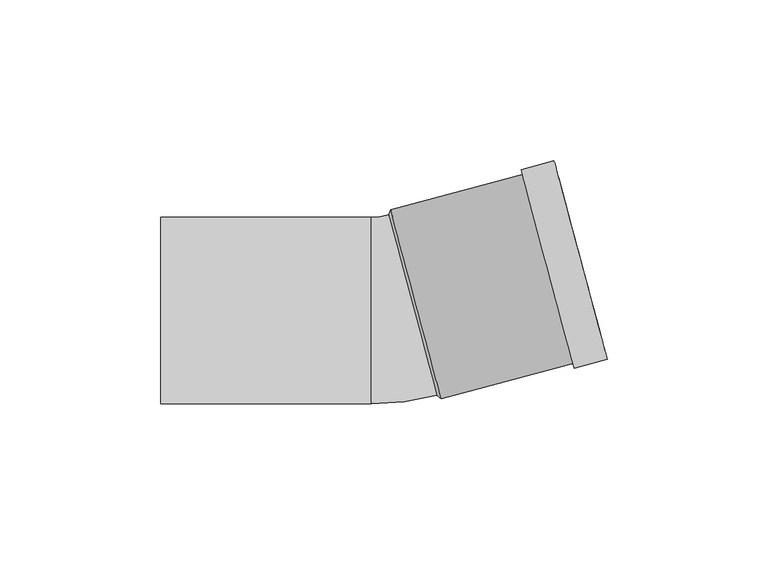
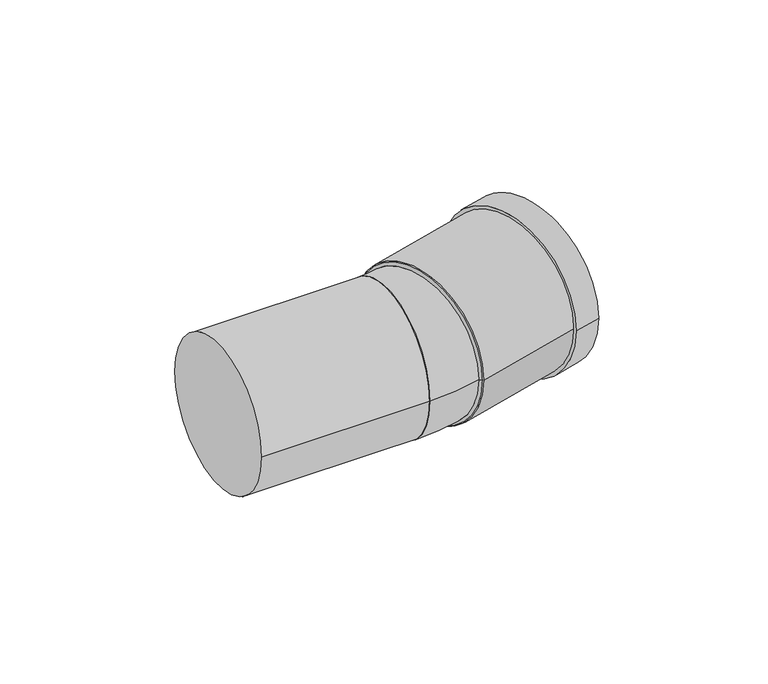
"""IFC4 building model written with IfcOpenShell, lengths in millimetres: pipe fitting geometry, Superdrain SKB Bend : Superdrain SKB Bend."""

from ifc_helpers import new_model, si_unit, point, frame, origin, origin_2d, place, context, project, spatial, polyline, circle_curve, ellipse_curve, trimmed, segment, composite_curve, outline, extrude, source, transform, mapped, element, save
from ifc_brep_helpers import plane_surface, revolved_surface, advanced_brep


def pipe_fitting_c4610ebc(model_context):
    return source(origin(), model_context, "Body", "SolidModel", [
        advanced_brep(
        [(13.8808628, -26.3036433, 0.0), (-1.1306419, 29.7200547, 0.0), (-6.6, -29.0, 0.0), (-6.6, 29.0, 0.0)],
        [
            (0, 1, circle_curve(frame((6.3751105, 1.7082057, 0.0), z_axis=(0.965925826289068, 0.258819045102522, 0.0), x_axis=(-0.258819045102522, 0.965925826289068, 0.0)), 29.0)),
            (1, 0, circle_curve(frame((6.3751105, 1.7082057, 0.0), z_axis=(0.9659258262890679, 0.25881904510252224, 0.0), x_axis=(-0.25881904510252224, 0.9659258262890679, 0.0)), 29.0)),
            (2, 3, circle_curve(frame((-6.6, 0.0, 0.0), z_axis=(-1.0, 0.0, 0.0), x_axis=(0.0, 1.0, 0.0)), 29.0)),
            (3, 2, circle_curve(frame((-6.6, 0.0, 0.0), z_axis=(-1.0, 0.0, 0.0), x_axis=(0.0, 1.0, 0.0)), 29.0)),
            (3, 1, circle_curve(frame((-6.6, 50.1319771, 0.0), z_axis=(0.0, 0.0, 1.0), x_axis=(1.0, 0.0, 0.0)), 21.1319771)),
            (0, 2, circle_curve(frame((-6.6, 50.1319771, 0.0), z_axis=(0.0, 0.0, -1.0), x_axis=(1.0, 0.0, 0.0)), 79.1319771)),
        ],
        [
            plane_surface(frame((6.3751105, 1.7082057, 0.0), z_axis=(0.965925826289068, 0.25881904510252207, 0.0), x_axis=(0.0, 0.0, -1.0))),
            plane_surface(frame((-6.6, 0.0, 0.0), z_axis=(-1.0, 0.0, 0.0), x_axis=(0.0, 0.0, -1.0))),
            revolved_surface(trimmed(ellipse_curve(frame((43.5319771, 50.1319771, 0.0), z_axis=(0.0, -1.0, 0.0), x_axis=(-1.0, 0.0, 0.0)), 29.0, 29.0), [point((14.5319771, 50.1319771, 0.0))], [point((72.5319771, 50.1319771, 0.0))], True, "CARTESIAN"), (-6.6, 50.1319771, 0.0), (0.0, 0.0, 1.0)),
            revolved_surface(trimmed(ellipse_curve(frame((43.5319771, 50.1319771, 0.0), z_axis=(0.0, -1.0, 0.0), x_axis=(-1.0, 0.0, 0.0)), 29.0, 29.0), [point((72.5319771, 50.1319771, 0.0))], [point((14.5319771, 50.1319771, 0.0))], True, "CARTESIAN"), (-6.6, 50.1319771, 0.0), (0.0, 0.0, 1.0)),
        ],
        [
            (0, [[1, 2]]),
            (1, [[3, 4]]),
            (2, [[-4, 5, -1, 6]]),
            (3, [[-3, -6, -2, -5]]),
        ],
    ),
        extrude(outline(composite_curve([segment(trimmed(circle_curve(origin_2d(), 30.45), [point((0.0, 30.45))], [point((0.0, -30.4500001))], False, "CARTESIAN"), True, "CONTINUOUS"), segment(trimmed(circle_curve(origin_2d(), 30.45), [point((0.0, -30.4500001))], [point((0.0, 30.45))], False, "CARTESIAN"), True, "CONTINUOUS")], self_intersect=False), holes=[composite_curve([segment(trimmed(circle_curve(origin_2d(), 29.0), [point((0.0, 28.9999999))], [point((0.0, -29.0))], True, "CARTESIAN"), True, "CONTINUOUS"), segment(trimmed(circle_curve(origin_2d(), 29.0), [point((0.0, -29.0))], [point((0.0, 28.9999999))], True, "CARTESIAN"), True, "CONTINUOUS")], self_intersect=False)]), frame((7.3410363, 1.9670247, 0.0), z_axis=(0.9659258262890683, 0.2588190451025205, 0.0), x_axis=(0.0, 0.0, 1.0)), (0.0, 0.0, 1.0), 53.0),
        extrude(outline(composite_curve([segment(trimmed(circle_curve(origin_2d(), 31.9725), [point((0.0, -31.9724999))], [point((0.0, 31.9725))], False, "CARTESIAN"), True, "CONTINUOUS"), segment(trimmed(circle_curve(origin_2d(), 31.9725), [point((0.0, 31.9725))], [point((0.0, -31.9724999))], False, "CARTESIAN"), True, "CONTINUOUS")], self_intersect=False), holes=[composite_curve([segment(trimmed(circle_curve(origin_2d(), 29.0), [point((0.0, -28.9999999))], [point((0.0, 29.0))], True, "CARTESIAN"), True, "CONTINUOUS"), segment(trimmed(circle_curve(origin_2d(), 29.0), [point((0.0, 29.0))], [point((0.0, -28.9999999))], True, "CARTESIAN"), True, "CONTINUOUS")], self_intersect=False)]), frame((48.2962913, 12.9409523, 0.0), z_axis=(0.9659258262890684, 0.25881904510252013, 0.0), x_axis=(0.0, 0.0, 1.0)), (0.0, 0.0, 1.0), 10.6),
        advanced_brep(
        [(15.2220762, -27.4454167, 0.0), (-0.5400036, 31.3794662, 0.0), (13.8808628, -26.3036433, 0.0), (-1.1306419, 29.7200547, 0.0)],
        [
            (0, 1, circle_curve(frame((7.3410363, 1.9670247, 0.0), z_axis=(0.9659258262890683, 0.2588190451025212, 0.0), x_axis=(0.2588190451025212, -0.9659258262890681, 0.0)), 30.45)),
            (1, 0, circle_curve(frame((7.3410363, 1.9670247, 0.0), z_axis=(0.9659258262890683, 0.2588190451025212, 0.0), x_axis=(-0.258819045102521, 0.9659258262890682, 0.0)), 30.45)),
            (2, 3, circle_curve(frame((6.3751105, 1.7082057, 0.0), z_axis=(-0.9659258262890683, -0.2588190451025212, 0.0), x_axis=(-0.258819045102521, 0.9659258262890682, 0.0)), 29.0)),
            (3, 2, circle_curve(frame((6.3751105, 1.7082057, 0.0), z_axis=(-0.9659258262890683, -0.2588190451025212, 0.0), x_axis=(0.2588190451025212, -0.9659258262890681, 0.0)), 29.0)),
            (3, 1),
            (0, 2),
        ],
        [
            plane_surface(frame((7.3410363, 1.9670247, 0.0), z_axis=(0.9659258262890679, 0.25881904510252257, 0.0), x_axis=(0.0, 0.0, -1.0))),
            plane_surface(frame((6.3751105, 1.7082057, 0.0), z_axis=(-0.9659258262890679, -0.25881904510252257, 0.0), x_axis=(0.0, 0.0, -1.0))),
            revolved_surface(polyline([(-1.1306418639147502, 29.720054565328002, 0.0), (-0.5400036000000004, 31.3794662, 0.0)]), (-12.9434061, -3.4681752, 0.0), (0.9659258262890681, 0.25881904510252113, 0.0)),
            revolved_surface(polyline([(13.880862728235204, -26.303643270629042, 0.0), (15.222076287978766, -27.445416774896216, 0.0)]), (-12.9434061, -3.4681752, 0.0), (0.9659258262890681, 0.25881904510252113, 0.0)),
        ],
        [
            (0, [[1, 2]]),
            (1, [[3, 4]]),
            (2, [[-4, 5, -1, 6]]),
            (3, [[-3, -6, -2, -5]]),
        ],
    ),
        extrude(outline(composite_curve([segment(trimmed(circle_curve(origin_2d(), 29.0), [point((-29.0, 0.0))], [point((29.0, 0.0))], False, "CARTESIAN"), True, "CONTINUOUS"), segment(trimmed(circle_curve(origin_2d(), 29.0), [point((29.0, 0.0))], [point((-29.0, 0.0))], False, "CARTESIAN"), True, "CONTINUOUS")], self_intersect=False)), frame((-72.0, 0.0, 0.0), z_axis=(1.0, 0.0, 0.0), x_axis=(0.0, 1.0, 0.0)), (0.0, 0.0, 1.0), 65.4),
    ])


if __name__ == "__main__":
    model = new_model("IFC4")
    model_context = context("Model", 3, world=origin())
    ifc_project = project(units=[si_unit("LENGTHUNIT", "METRE", prefix="MILLI")], contexts=[model_context])
    site = spatial("IfcSite", under=ifc_project)
    building = spatial("IfcBuilding", under=site)
    placement = place(None, origin())
    pipe_fitting_shape = pipe_fitting_c4610ebc(model_context)
    element("IfcPipeFitting", 1, ObjectType="Superdrain SKB Bend : Superdrain SKB Bend", at=placement, inside=building, context=model_context, shape_type="MappedRepresentation", body=[
        mapped(pipe_fitting_shape, transform((0.0, 0.0, 0.0), x_axis=(1.0, 0.0, 0.0), y_axis=(0.0, 1.0, 0.0), z_axis=(0.0, 0.0, 1.0))),
    ])
    save(model, "model.ifc")
